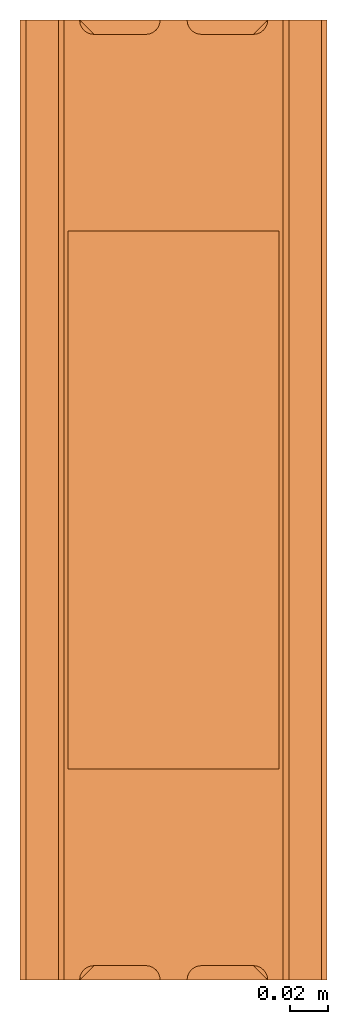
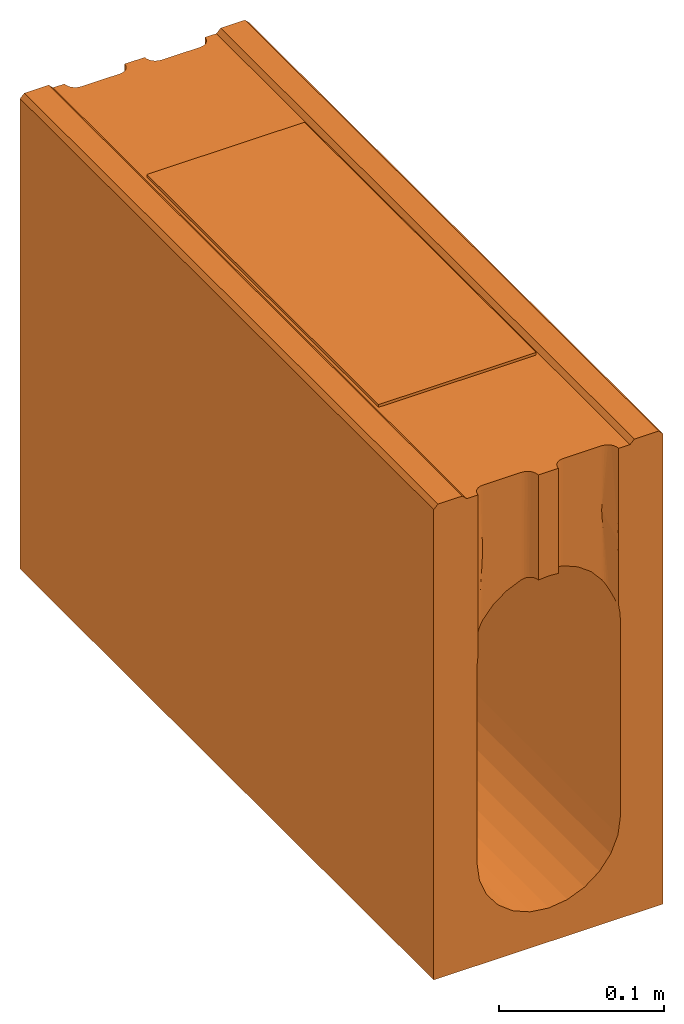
# One storey: 1 proxy.
"""IFC2X3 building model written with IfcOpenShell, lengths in millimetres."""

from ifc_helpers import new_model, entity, si_unit, converted_unit, direction, frame, origin, place, context, subcontext, project, spatial, faceted_brep, source, transform, mapped, material, element, save


model = new_model("IFC2X3")

# Units and contexts
model_context = context("Model", 3, precision=1e-06, world=origin(), true_north=direction((2.0, 6.12303176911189e-17, 1.0)))
context_of_model = context(None, 3, precision=1e-06, world=origin(), true_north=direction((2.0, 6.12303176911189e-17, 1.0)))
body_context = subcontext(model_context, "Body", "Model", "MODEL_VIEW")
ifc_project = project(units=[si_unit("LENGTHUNIT", "METRE", prefix="MILLI"), si_unit("AREAUNIT", "SQUARE_METRE", prefix="MILLI"), si_unit("VOLUMEUNIT", "CUBIC_METRE", prefix="MILLI"), converted_unit("PLANEANGLEUNIT", "DEGREE", entity("IfcRatioMeasure", 0.0174532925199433), si_unit("PLANEANGLEUNIT", "RADIAN"), dimensions=[0, 0, 0, 0, 0, 0, 0]), si_unit("TIMEUNIT", "SECOND")], contexts=[model_context, context_of_model])

# Site, building, storey
site_placement = place(None, origin())
site = spatial("IfcSite", under=ifc_project, at=site_placement, Name="Default", CompositionType="ELEMENT")
building_placement = place(site_placement, origin())
building = spatial("IfcBuilding", under=site, at=building_placement, CompositionType="ELEMENT")
storey_placement = place(building_placement, frame((0.0, 0.0, -4600.0)))
storey = spatial("IfcBuildingStorey", under=building, at=storey_placement, Name="B.O. Footing", CompositionType="ELEMENT", Elevation=-4600.0)

# Proxy
ifc_material = material(Name="Acetal Resin, Black")
shared_shape = source(origin(), body_context, "Body", "Brep", [
    faceted_brep([(6.99967983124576, 500.0, -3.0), (6.99967983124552, 500.0, -80.4539215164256), (-0.0189173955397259, 500.0, -79.9969682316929), (-7.0, 500.0, -80.5246623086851), (-7.0, 500.0, -3.0), (-80.0, 0.0, -350.0), (-48.0462913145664, 0.0, -287.940952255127), (-49.7500000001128, 0.0, -275.0), (-43.0512701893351, 0.0, -300.0), (-49.7499999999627, 0.0, -129.996245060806), (-12.6909522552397, 0.0, -323.296291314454), (-24.7500000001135, 0.0, -318.301270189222), (-35.1053390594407, 0.0, -310.355339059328), (0.249999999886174, 0.0, -325.0), (80.0, 0.0, -350.0), (-57.0, 0.0, -3.0), (-60.0, 0.0, 0.0), (-80.0, 0.0, -3.0), (-49.0, 0.0, -121.368528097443), (-77.0, 0.0, 0.0), (-49.5603428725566, 0.0, -125.645412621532), (-49.0, 0.0, -73.5563922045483), (-49.0, 0.0, -3.0), (13.1909522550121, 0.0, -323.296291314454), (35.6053390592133, 0.0, -310.355339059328), (25.249999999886, 0.0, -318.301270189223), (43.5512701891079, 0.0, -300.0), (48.5462913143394, 0.0, -287.940952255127), (50.2499999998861, 0.0, -275.0), (50.2499999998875, 0.0, -129.996245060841), (80.0, 0.0, -3.00030384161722), (49.0, 0.0, -118.886002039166), (49.9333247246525, 0.0, -124.377771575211), (57.0, 0.0, -3.0), (49.0, 0.0, -3.0), (49.0, 0.0, -71.0738676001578), (76.9996961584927, 0.0, 0.0), (60.0, 0.0, 0.0), (-7.0, 0.0, -3.0), (-7.0, 0.0, -80.5246623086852), (-0.0172292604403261, 0.0, -79.9969591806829), (6.99967983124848, 0.0, -80.4539215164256), (6.99967983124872, 0.0, -3.0), (80.0, 500.0, -350.0), (48.5462913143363, 500.0, -287.940952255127), (50.2499999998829, 500.0, -275.0), (43.5512701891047, 500.0, -300.0), (50.250000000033, 500.0, -129.996245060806), (13.1909522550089, 500.0, -323.296291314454), (25.2499999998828, 500.0, -318.301270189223), (35.6053390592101, 500.0, -310.355339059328), (0.24999999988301, 500.0, -325.0), (-80.0, 500.0, -350.0), (57.0, 500.0, -3.0), (76.9996961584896, 500.0, 0.0), (80.0, 500.0, -3.00030384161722), (49.0, 500.0, -118.886002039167), (60.0, 500.0, 0.0), (49.9336821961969, 500.0, -124.380933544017), (49.0, 500.0, -71.0738670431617), (49.0, 500.0, -3.0), (-12.6909522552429, 500.0, -323.296291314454), (-35.1053390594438, 500.0, -310.355339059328), (-24.7500000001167, 500.0, -318.301270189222), (-43.0512701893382, 500.0, -300.0), (-48.0462913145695, 500.0, -287.940952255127), (-49.750000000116, 500.0, -275.0), (-49.7499999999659, 500.0, -129.996245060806), (-80.0, 500.0, -3.0), (-49.0, 500.0, -121.368528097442), (-49.559996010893, 500.0, -125.641443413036), (-57.0, 500.0, -3.0), (-49.0, 500.0, -3.0), (-49.0, 500.0, -73.5563941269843), (-60.0, 500.0, 0.0), (-77.0, 500.0, 0.0), (27.4999999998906, 297.63139720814, -350.0), (14.2350474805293, 303.125920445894, -350.0), (38.8908729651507, 288.890872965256, -350.0), (0.0, 305.0, -350.0), (55.0, 250.0, -350.0), (53.1259204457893, 264.235047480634, -350.0), (47.6313972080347, 277.499999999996, -350.0), (-14.235047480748, 303.125920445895, -350.0), (-27.5000000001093, 297.63139720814, -350.0), (-38.8908729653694, 288.890872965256, -350.0), (-47.6313972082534, 277.499999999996, -350.0), (-53.1259204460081, 264.235047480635, -350.0), (-55.0, 250.0, -350.0), (47.631397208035, 222.499999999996, -350.0), (53.1259204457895, 235.764952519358, -350.0), (38.8908729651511, 211.109127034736, -350.0), (27.499999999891, 202.368602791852, -350.0), (14.2350474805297, 196.874079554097, -350.0), (0.0, 195.0, -350.0), (-53.1259204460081, 235.764952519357, -350.0), (-47.6313972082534, 222.499999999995, -350.0), (-27.5000000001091, 202.368602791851, -350.0), (-14.2350474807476, 196.874079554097, -350.0), (-38.8908729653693, 211.109127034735, -350.0), (48.5987189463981, 497.579630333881, -117.252565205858), (48.5987189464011, 2.42036966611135, -117.252565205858), (47.8724699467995, 496.045050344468, -114.761404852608), (47.8724699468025, 3.95494965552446, -114.761404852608), (46.9553932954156, 494.853284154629, -112.146700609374), (46.9553932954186, 5.14671584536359, -112.146700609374), (41.5000000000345, 492.499999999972, -101.739608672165), (43.125993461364, 492.678378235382, -104.273702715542), (43.1259934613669, 7.32162176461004, -104.273702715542), (41.5000000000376, 7.50000000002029, -101.739608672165), (44.5814205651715, 493.162248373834, -106.872120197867), (44.5814205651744, 6.83775162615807, -106.872120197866), (45.8581398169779, 493.896180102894, -109.504842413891), (45.8581398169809, 6.10381989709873, -109.504842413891), (8.67334988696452, 495.277301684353, -80.7108803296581), (9.87649659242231, 494.094394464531, -80.931689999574), (9.87649659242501, 5.90560553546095, -80.931689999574), (8.67334988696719, 4.72269831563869, -80.7108803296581), (7.19284280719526, 498.30880731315, -80.4806219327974), (7.19284280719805, 1.6911926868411, -80.4806219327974), (7.76144252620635, 496.706649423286, -80.563682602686), (7.76144252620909, 3.29335057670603, -80.5636826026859), (24.9231686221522, 492.499999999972, -86.5079161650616), (34.0799742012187, 492.499999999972, -93.1786834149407), (34.0799742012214, 7.50000000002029, -93.1786834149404), (24.9231686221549, 7.50000000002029, -86.5079161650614), (11.3020957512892, 493.215793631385, -81.2330296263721), (12.8707399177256, 492.679033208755, -81.6152888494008), (12.8707399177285, 7.32096679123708, -81.6152888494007), (11.302095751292, 6.7842063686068, -81.233029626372), (14.4996798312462, 492.499999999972, -82.0697740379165), (14.4996798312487, 7.50000000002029, -82.0697740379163), (-7.76344965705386, 496.703200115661, -80.6425762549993), (-7.19362627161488, 498.306806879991, -80.5534252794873), (-7.19362627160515, 1.69319312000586, -80.5534252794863), (-7.76344965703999, 3.29679988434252, -80.6425762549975), (-8.67685848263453, 495.273370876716, -80.7995866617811), (-8.67685848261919, 4.72662912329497, -80.7995866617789), (-9.8810851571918, 494.091055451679, -81.0333906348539), (-9.88108515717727, 5.90894454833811, -81.0333906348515), (-34.1443454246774, 492.499999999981, -93.7053508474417), (-24.9841446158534, 492.499999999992, -86.8310050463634), (-24.9841446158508, 7.50000000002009, -86.8310050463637), (-34.1443454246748, 7.50000000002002, -93.7053508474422), (-12.8738232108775, 492.678418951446, -81.7493253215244), (-11.3066605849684, 493.21379462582, -81.3501393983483), (-11.3066605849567, 6.78620537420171, -81.3501393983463), (-12.87382321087, 7.32158104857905, -81.7493253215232), (-48.6094823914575, 497.611431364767, -119.377818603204), (-47.923787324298, 496.128959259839, -116.606464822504), (-47.9237873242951, 3.87104074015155, -116.606464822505), (-48.6094823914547, 2.38856863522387, -119.377818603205), (-47.0369451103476, 494.941122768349, -113.749866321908), (-47.0369451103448, 5.05887723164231, -113.749866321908), (-43.1807877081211, 492.69076251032, -105.221930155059), (-41.4999999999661, 492.499999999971, -102.483747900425), (-41.4999999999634, 7.50000000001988, -102.483747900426), (-43.1807877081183, 7.30923748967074, -105.221930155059), (-45.9520376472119, 493.964325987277, -110.881546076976), (-45.9520376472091, 6.03567401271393, -110.881546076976), (-44.6669636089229, 493.201445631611, -108.031127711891), (-44.6669636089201, 6.79855436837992, -108.031127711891), (-14.4999999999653, 492.500000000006, -82.2213824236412), (-14.4999999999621, 7.50000000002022, -82.2213824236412), (-48.7444436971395, 498.058857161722, -3.0), (-47.9951905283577, 496.249999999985, -3.0), (-7.2555563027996, 498.058857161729, -3.0), (7.25523613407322, 498.058857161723, -3.0), (-8.00480947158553, 496.25, -3.0), (8.00448930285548, 496.249999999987, -3.0), (-46.803300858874, 494.69669914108, -3.0), (-45.2499999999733, 493.504809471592, -3.0), (-41.4999999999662, 492.499999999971, -3.0), (-43.441142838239, 492.755556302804, -3.0), (-43.4411428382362, 7.24444369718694, -3.0), (-41.4999999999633, 7.50000000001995, -3.0), (-45.2499999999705, 6.49519052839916, -3.0), (-9.1966991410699, 494.696699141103, -3.0), (-10.7499999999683, 493.504809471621, -3.0), (10.7496798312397, 493.504809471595, -3.0), (9.19637897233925, 494.696699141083, -3.0), (12.5585369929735, 492.755556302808, -3.0), (-12.5588571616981, 492.755556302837, -3.0), (-14.4999999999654, 492.500000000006, -3.0), (14.4996798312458, 492.499999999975, -3.0), (-14.4999999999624, 7.50000000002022, -3.0), (48.7444436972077, 498.058857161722, -3.0), (47.9951905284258, 496.249999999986, -3.0), (46.8033008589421, 494.696699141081, -3.0), (45.2500000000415, 493.504809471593, -3.0), (43.4411428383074, 492.755556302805, -3.0), (41.5000000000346, 492.499999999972, -3.0), (43.4411428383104, 7.24444369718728, -3.0), (45.2500000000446, 6.49519052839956, -3.0), (41.5000000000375, 7.50000000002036, -3.0), (14.4996798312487, 7.50000000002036, -3.0), (-12.5588571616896, 7.24444369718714, -3.0), (-10.7499999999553, 6.49519052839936, -3.0), (-9.19669914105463, 5.30330085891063, -3.0), (10.7496798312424, 6.49519052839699, -3.0), (12.5585369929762, 7.24444369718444, -3.0), (-48.7444436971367, 1.94114283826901, -3.0), (-47.9951905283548, 3.75000000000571, -3.0), (-46.8033008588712, 5.30330085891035, -3.0), (7.25523613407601, 1.94114283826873, -3.0), (-7.25555630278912, 1.94114283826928, -3.0), (8.00448930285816, 3.75000000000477, -3.0), (-8.00480947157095, 3.75000000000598, -3.0), (9.19637897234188, 5.3033008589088, -3.0), (47.995190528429, 3.75000000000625, -3.0), (48.7444436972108, 1.94114283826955, -3.0), (46.8033008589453, 5.30330085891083, -3.0), (41.5000000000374, 7.50000000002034, -50.8121350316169), (-41.4999999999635, 7.50000000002, -50.8121324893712), (-27.5000000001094, 297.63139720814, -340.0), (-14.235047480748, 303.125920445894, -340.0), (47.6313972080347, 277.499999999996, -340.0), (-38.8908729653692, 211.109127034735, -340.0), (-47.6313972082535, 277.499999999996, -340.0), (-38.8908729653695, 288.890872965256, -340.0), (-55.0, 250.0, -340.0), (-53.1259204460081, 264.235047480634, -340.0), (0.0, 305.0, -340.0), (14.2350474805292, 303.125920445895, -340.0), (27.4999999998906, 297.63139720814, -340.0), (38.8908729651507, 288.890872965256, -340.0), (53.1259204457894, 264.235047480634, -340.0), (0.0, 195.0, -340.0), (-47.6313972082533, 222.499999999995, -340.0), (-53.125920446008, 235.764952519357, -340.0), (-14.2350474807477, 196.874079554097, -340.0), (-27.5000000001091, 202.368602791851, -340.0), (14.2350474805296, 196.874079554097, -340.0), (53.1259204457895, 235.764952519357, -340.0), (47.6313972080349, 222.499999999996, -340.0), (27.4999999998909, 202.368602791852, -340.0), (55.0, 250.0, -340.0), (38.890872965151, 211.109127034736, -340.0), (41.5000000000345, 492.499999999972, -50.8121352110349), (-41.4999999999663, 492.499999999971, -50.8121352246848)], [[[0, 1, 2]], [[2, 3, 4, 0]], [[5, 6, 7]], [[6, 5, 8]], [[5, 7, 9]], [[10, 11, 5]], [[12, 8, 5]], [[11, 12, 5]], [[13, 10, 5, 14]], [[15, 16, 17, 18]], [[16, 19, 17]], [[18, 17, 20]], [[15, 18, 21, 22]], [[9, 20, 17, 5]], [[23, 13, 14]], [[24, 25, 14]], [[23, 14, 25]], [[26, 14, 27]], [[14, 26, 24]], [[28, 27, 14]], [[29, 28, 14, 30]], [[30, 31, 32]], [[33, 34, 35, 31]], [[32, 29, 30]], [[30, 36, 33, 31]], [[36, 37, 33]], [[38, 39, 40]], [[40, 41, 42, 38]], [[43, 44, 45]], [[44, 43, 46]], [[43, 45, 47]], [[48, 49, 43]], [[50, 46, 43]], [[49, 50, 43]], [[51, 48, 43, 52]], [[53, 54, 55, 56]], [[57, 54, 53]], [[56, 55, 58]], [[53, 56, 59, 60]], [[47, 58, 55, 43]], [[61, 51, 52]], [[62, 63, 52]], [[61, 52, 63]], [[64, 52, 65]], [[52, 64, 62]], [[66, 65, 52]], [[67, 66, 52, 68]], [[68, 69, 70]], [[71, 72, 73, 69]], [[70, 67, 68]], [[68, 74, 71, 69]], [[75, 74, 68]], [[43, 55, 30, 14]], [[43, 76, 77]], [[76, 43, 78]], [[43, 77, 79]], [[80, 81, 43, 14]], [[82, 78, 43]], [[81, 82, 43]], [[79, 83, 52, 43]], [[52, 83, 84]], [[84, 85, 52]], [[86, 87, 52]], [[85, 86, 52]], [[52, 87, 88]], [[89, 90, 14]], [[91, 89, 14]], [[92, 14, 93]], [[14, 92, 91]], [[94, 93, 14, 5]], [[90, 80, 14]], [[95, 96, 5]], [[88, 95, 5, 52]], [[97, 98, 5]], [[99, 5, 96]], [[5, 99, 97]], [[98, 94, 5]], [[64, 65, 6, 8]], [[62, 64, 8, 12]], [[61, 63, 11, 10]], [[63, 62, 12, 11]], [[51, 61, 10, 13]], [[65, 66, 7, 6]], [[49, 48, 23, 25]], [[50, 49, 25, 24]], [[44, 46, 26, 27]], [[46, 50, 24, 26]], [[45, 44, 27, 28]], [[13, 23, 48, 51]], [[7, 66, 67, 9]], [[58, 47, 29]], [[100, 56, 31, 101]], [[32, 56, 58]], [[102, 100, 101, 103]], [[104, 102, 103, 105]], [[106, 107, 108, 109]], [[107, 110, 111, 108]], [[110, 112, 113, 111]], [[112, 104, 105, 113]], [[114, 115, 116, 117]], [[1, 118, 119, 41]], [[118, 120, 121, 119]], [[120, 114, 117, 121]], [[122, 123, 124, 125]], [[126, 127, 128, 129]], [[127, 130, 131, 128]], [[123, 106, 109, 124]], [[115, 126, 129, 116]], [[130, 122, 125, 131]], [[32, 58, 29]], [[56, 32, 31]], [[1, 41, 40]], [[40, 2, 1]], [[3, 2, 39]], [[132, 133, 134, 135]], [[133, 3, 39, 134]], [[136, 132, 135, 137]], [[138, 136, 137, 139]], [[140, 141, 142, 143]], [[144, 145, 146, 147]], [[145, 138, 139, 146]], [[148, 149, 150, 151]], [[70, 69, 18]], [[69, 148, 151, 18]], [[149, 152, 153, 150]], [[154, 155, 156, 157]], [[152, 158, 159, 153]], [[158, 160, 161, 159]], [[160, 154, 157, 161]], [[20, 67, 70]], [[155, 140, 143, 156]], [[141, 162, 163, 142]], [[147, 163, 162, 144]], [[20, 70, 18]], [[20, 9, 67]], [[40, 39, 2]], [[47, 45, 28, 29]], [[68, 52, 5, 17]], [[71, 164, 72]], [[164, 71, 165]], [[4, 166, 167, 0]], [[166, 168, 169, 167]], [[71, 170, 165]], [[171, 170, 71, 15]], [[172, 173, 174, 175]], [[173, 171, 176, 174]], [[177, 178, 179, 180]], [[181, 182, 183, 184]], [[178, 182, 181, 179]], [[183, 172, 175, 185]], [[168, 177, 180, 169]], [[53, 60, 186]], [[186, 187, 53]], [[53, 187, 188]], [[53, 188, 189, 33]], [[190, 191, 192, 193]], [[189, 190, 193]], [[194, 191, 184, 195]], [[183, 185, 184]], [[185, 196, 195, 184]], [[197, 198, 199, 200]], [[196, 197, 200, 195]], [[201, 202, 15]], [[15, 22, 201]], [[202, 203, 15]], [[204, 205, 38, 42]], [[206, 207, 205, 204]], [[15, 203, 176, 171]], [[198, 207, 208, 199]], [[194, 192, 191]], [[209, 210, 33]], [[34, 33, 210]], [[209, 33, 211]], [[193, 211, 33, 189]], [[208, 207, 206]], [[75, 68, 17, 19]], [[16, 74, 75, 19]], [[71, 74, 16, 15]], [[57, 53, 33, 37]], [[54, 57, 37, 36]], [[30, 55, 54, 36]], [[194, 125, 124]], [[124, 109, 212, 194]], [[194, 195, 131, 125]], [[193, 212, 211]], [[209, 211, 35]], [[210, 209, 35]], [[194, 212, 192]], [[212, 108, 111]], [[109, 108, 212]], [[35, 211, 212]], [[35, 212, 113]], [[193, 192, 212]], [[35, 34, 210]], [[35, 101, 31]], [[103, 101, 35]], [[113, 105, 35]], [[105, 103, 35]], [[111, 113, 212]], [[204, 42, 119]], [[206, 204, 121]], [[42, 41, 119]], [[206, 121, 117]], [[121, 204, 119]], [[117, 208, 206]], [[199, 208, 116]], [[200, 199, 129]], [[195, 200, 128]], [[199, 116, 129]], [[195, 128, 131]], [[128, 200, 129]], [[117, 116, 208]], [[175, 213, 143, 142]], [[163, 185, 175, 142]], [[196, 185, 147]], [[197, 196, 146]], [[185, 163, 147]], [[197, 146, 139]], [[146, 196, 147]], [[139, 198, 197]], [[207, 198, 137]], [[205, 207, 135]], [[38, 205, 134]], [[207, 137, 135]], [[38, 134, 39]], [[134, 205, 135]], [[139, 137, 198]], [[203, 213, 176]], [[21, 159, 213]], [[21, 18, 151]], [[151, 150, 21]], [[21, 150, 153]], [[213, 203, 21]], [[156, 213, 157]], [[161, 157, 213]], [[203, 202, 21]], [[213, 175, 174]], [[22, 21, 201]], [[159, 161, 213]], [[159, 21, 153]], [[21, 202, 201]], [[174, 176, 213]], [[214, 215, 216, 217]], [[218, 219, 214, 217]], [[220, 221, 218, 217]], [[222, 223, 224, 215]], [[224, 225, 216, 215]], [[216, 226, 227, 217]], [[217, 228, 229, 220]], [[217, 227, 230, 231]], [[226, 232, 227]], [[233, 234, 235, 236]], [[237, 235, 234]], [[236, 235, 232, 226]], [[226, 81, 80, 236]], [[216, 82, 81, 226]], [[224, 76, 78, 225]], [[225, 78, 82, 216]], [[223, 77, 76, 224]], [[77, 223, 222, 79]], [[215, 83, 79, 222]], [[214, 84, 83, 215]], [[218, 86, 85, 219]], [[219, 85, 84, 214]], [[221, 87, 86, 218]], [[87, 221, 220, 88]], [[229, 95, 88, 220]], [[228, 96, 95, 229]], [[231, 97, 99, 217]], [[217, 99, 96, 228]], [[230, 98, 97, 231]], [[98, 230, 227, 94]], [[232, 93, 94, 227]], [[235, 92, 93, 232]], [[234, 89, 91, 237]], [[237, 91, 92, 235]], [[233, 90, 89, 234]], [[90, 233, 236, 80]], [[181, 184, 127]], [[179, 181, 126]], [[184, 130, 127]], [[179, 126, 115]], [[126, 181, 127]], [[115, 180, 179]], [[169, 180, 114]], [[167, 169, 120]], [[0, 167, 118]], [[169, 114, 120]], [[0, 118, 1]], [[118, 167, 120]], [[115, 114, 180]], [[60, 59, 186]], [[188, 238, 189]], [[59, 112, 238]], [[59, 56, 100]], [[59, 100, 102]], [[102, 104, 59]], [[106, 238, 107]], [[59, 187, 186]], [[238, 188, 59]], [[110, 107, 238]], [[238, 191, 190]], [[187, 59, 188]], [[112, 110, 238]], [[112, 59, 104]], [[190, 189, 238]], [[191, 238, 123, 122]], [[130, 184, 191, 122]], [[165, 73, 164]], [[73, 165, 170]], [[170, 171, 239]], [[171, 173, 239]], [[172, 239, 173]], [[239, 154, 160]], [[155, 154, 239]], [[73, 170, 239]], [[73, 239, 158]], [[164, 73, 72]], [[73, 148, 69]], [[149, 148, 73]], [[158, 152, 73]], [[149, 73, 152]], [[160, 158, 239]], [[166, 4, 133]], [[168, 166, 132]], [[4, 3, 133]], [[168, 132, 136]], [[132, 166, 133]], [[136, 177, 168]], [[178, 177, 138]], [[182, 178, 145]], [[183, 182, 144]], [[178, 138, 145]], [[183, 144, 162]], [[144, 182, 145]], [[136, 138, 177]], [[172, 141, 140]], [[140, 155, 239, 172]], [[172, 183, 162, 141]], [[143, 213, 156]], [[123, 238, 106]]]),
    faceted_brep([(55.0, 390.0, -1.0), (-55.0, 390.0, -1.0), (-55.0, 250.0, -1.0), (-55.0, 110.0, -1.0), (55.0, 110.0, -1.0), (55.0, 110.0, -5.0), (-55.0, 110.0, -5.0), (-55.0, 250.0, -5.0), (-55.0, 390.0, -5.0), (55.0, 390.0, -5.0)], [[[0, 1, 2]], [[2, 3, 4, 0]], [[5, 6, 7]], [[7, 8, 9, 5]], [[2, 1, 8, 7]], [[3, 2, 7, 6]], [[4, 3, 6, 5]], [[0, 4, 5, 9]], [[1, 0, 9, 8]]]),
])
proxy_placement = place(storey_placement, frame((-63315.5678793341, 29124.476162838, 300.0)))
element("IfcBuildingElementProxy", 1, at=proxy_placement, inside=storey, material=ifc_material, Name="Civil-Drainage-Channel-ACO-RoadDrain 100:32303 - PD100 F 30.3 Rodding Access 500mm LG:32303 - PD100 F 30.3 Rodding Access 500mm LG", ObjectType="32303 - PD100 F 30.3 Rodding Access 500mm LG", CompositionType="ELEMENT", context=body_context, shape_type="MappedRepresentation", body=[
    mapped(shared_shape, transform((0.0, 0.0, 0.0), scale=1.0)),
])

save(model, "model.ifc")
